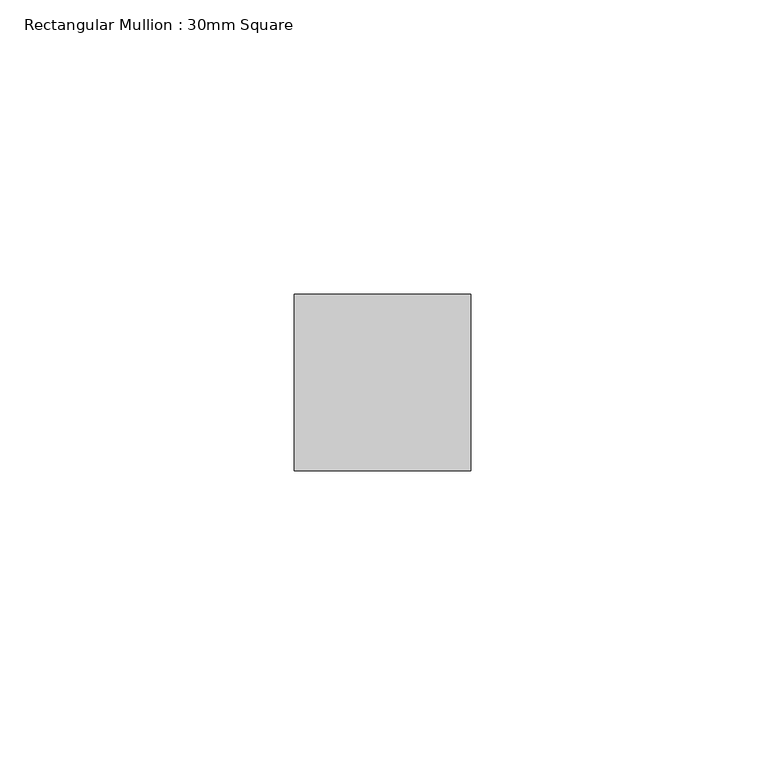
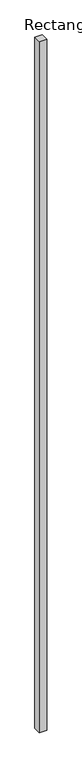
"""IFC4 building model written with IfcOpenShell, lengths in millimetres: member geometry, Rectangular Mullion : 30mm Square."""

import ifcopenshell
import ifcopenshell.guid

model = None  # the IFC model being written
_history = None  # IfcOwnerHistory: only IFC2X3 demands one
_inside = {}  # id of a spatial element -> (the spatial element, [elements in it])
_under = {}  # id of a project, library or spatial element -> (it, [spatial elements below it])
_declared = {}  # id of a project -> (the project, [libraries it declares])
_typed = {}  # id of a type object -> (the type object, [elements of that type])
_made_of = {}  # id of a material, layer set ... -> (it, [elements and type objects made of it])


def new_model(schema):
    """Start an empty IFC model of exactly this schema.

    Asked for "IFC4X3", IfcOpenShell would pick the latest addendum, in which some entities
    have other attributes; the version numbers below select the first issue.
    IFC2X3 requires an IfcOwnerHistory on every rooted entity: one is made here for all.
    """
    global model, _history
    if schema == "IFC4X3":
        model = ifcopenshell.file(schema_version=(4, 3, 0, 0))
    else:
        model = ifcopenshell.file(schema=schema)
    _inside.clear()
    _under.clear()
    _declared.clear()
    _typed.clear()
    _made_of.clear()
    _history = None
    if model.schema == "IFC2X3":
        org = make("IfcOrganization", Name="unknown")
        user = make(
            "IfcPersonAndOrganization",
            ThePerson=make("IfcPerson", FamilyName="unknown"),
            TheOrganization=org,
        )
        app = make(
            "IfcApplication",
            ApplicationDeveloper=org,
            Version="unknown",
            ApplicationFullName="unknown",
            ApplicationIdentifier="unknown",
        )
        _history = make(
            "IfcOwnerHistory",
            OwningUser=user,
            OwningApplication=app,
            ChangeAction="ADDED",
            CreationDate=0,
        )
    return model


def make(cls, **values):
    """One entity of the class cls with the attributes given. An attribute that is None is left unset."""
    return model.create_entity(
        cls, **{name: value for name, value in values.items() if value is not None}
    )


def rooted(cls, **values):
    """An entity with a GlobalId (a new one), such as an element, a storey or a relation."""
    return make(cls, GlobalId=ifcopenshell.guid.new(), OwnerHistory=_history, **values)


def si_unit(unit_type, name, prefix=None):
    """IfcSIUnit, for example si_unit("LENGTHUNIT", "METRE", prefix="MILLI")."""
    return make("IfcSIUnit", UnitType=unit_type, Prefix=prefix, Name=name)


def assignment(units):
    """IfcUnitAssignment: the units of a project."""
    return None if units is None else make("IfcUnitAssignment", Units=units)


def point(xyz):
    """IfcCartesianPoint."""
    return None if xyz is None else make("IfcCartesianPoint", Coordinates=xyz)


def direction(xyz):
    """IfcDirection."""
    return None if xyz is None else make("IfcDirection", DirectionRatios=xyz)


def frame(location, z_axis=None, x_axis=None):
    """IfcAxis2Placement3D, a coordinate frame: its origin and axes. An axis left out is left unset."""
    return make(
        "IfcAxis2Placement3D",
        Location=point(location),
        Axis=direction(z_axis),
        RefDirection=direction(x_axis),
    )


def origin():
    """The frame at (0, 0, 0) with its axes left unset."""
    return frame((0.0, 0.0, 0.0))


def place(relative_to, where):
    """IfcLocalPlacement: puts the frame where relative to a parent placement (None: the world)."""
    return make(
        "IfcLocalPlacement", PlacementRelTo=relative_to, RelativePlacement=where
    )


def context(
    kind, dimensions, precision=None, world=None, true_north=None, identifier=None
):
    """IfcGeometricRepresentationContext, for example the 3D "Model" context."""
    return make(
        "IfcGeometricRepresentationContext",
        ContextIdentifier=identifier,
        ContextType=kind,
        CoordinateSpaceDimension=dimensions,
        Precision=precision,
        WorldCoordinateSystem=world,
        TrueNorth=true_north,
    )


def project(units=None, contexts=None):
    """IfcProject with its units and contexts."""
    return rooted(
        "IfcProject",
        Name="project",
        RepresentationContexts=contexts,
        UnitsInContext=assignment(units),
    )


def spatial(cls, under=None, at=None, **own):
    """A site, building, storey or space (cls), placed at a placement, below another one or the project."""
    s = rooted(cls, ObjectPlacement=at, **own)
    if under is not None:
        _under.setdefault(under.id(), (under, []))[1].append(s)
    return s


def polyline(points):
    """IfcPolyline through the points."""
    return make("IfcPolyline", Points=[point(p) for p in points])


def outline(outer, holes=None, kind="AREA"):
    """IfcArbitraryClosedProfileDef: a profile drawn as a closed curve; with holes, ...WithVoids."""
    if holes is None:
        return make("IfcArbitraryClosedProfileDef", ProfileType=kind, OuterCurve=outer)
    return make(
        "IfcArbitraryProfileDefWithVoids",
        ProfileType=kind,
        OuterCurve=outer,
        InnerCurves=holes,
    )


def extrude(swept, where, along, depth):
    """IfcExtrudedAreaSolid: the profile swept, set in the frame where, extruded along a direction by depth."""
    return make(
        "IfcExtrudedAreaSolid",
        SweptArea=swept,
        Position=where,
        ExtrudedDirection=direction(along),
        Depth=depth,
    )


def shape(context_of_items, identifier, shape_type, items):
    """IfcShapeRepresentation: the items that make up one representation, for example the "Body"."""
    return make(
        "IfcShapeRepresentation",
        ContextOfItems=context_of_items,
        RepresentationIdentifier=identifier,
        RepresentationType=shape_type,
        Items=items,
    )


def source(mapping_origin, context_of_items, identifier, shape_type, items):
    """IfcRepresentationMap: a shape defined once, which mapped items show again and again."""
    return make(
        "IfcRepresentationMap",
        MappingOrigin=mapping_origin,
        MappedRepresentation=shape(context_of_items, identifier, shape_type, items),
    )


def transform(
    local_origin,
    x_axis=None,
    y_axis=None,
    z_axis=None,
    scale=None,
    scale2=None,
    scale3=None,
    uniform=True,
):
    """IfcCartesianTransformationOperator3D, or its non-uniform kind. x_axis, y_axis, z_axis: its Axis1, 2, 3."""
    if uniform:
        return make(
            "IfcCartesianTransformationOperator3D",
            Axis1=direction(x_axis),
            Axis2=direction(y_axis),
            LocalOrigin=point(local_origin),
            Scale=scale,
            Axis3=direction(z_axis),
        )
    return make(
        "IfcCartesianTransformationOperator3DnonUniform",
        Axis1=direction(x_axis),
        Axis2=direction(y_axis),
        LocalOrigin=point(local_origin),
        Scale=scale,
        Axis3=direction(z_axis),
        Scale2=scale2,
        Scale3=scale3,
    )


def mapped(mapping_source, mapping_target):
    """IfcMappedItem: shows the shape of a source again, moved by a transform."""
    return make(
        "IfcMappedItem", MappingSource=mapping_source, MappingTarget=mapping_target
    )


def made_of(thing, what):
    """Note that an element or type object is made of a material, layer set ...; save() writes the relation."""
    if what is not None:
        _made_of.setdefault(what.id(), (what, []))[1].append(thing)
    return thing


def element(
    cls,
    number,
    at=None,
    inside=None,
    cuts=None,
    type_object=None,
    material=None,
    context=None,
    identifier="Body",
    shape_type=None,
    held_by="IfcProductDefinitionShape",
    body=None,
    shapes=None,
    **own,
):
    """One element of the class cls, such as IfcWall. Its Tag is "e" and its number.

    at: its placement. inside: the storey or other place that contains it. cuts: it is an
    opening in that element (IfcRelVoidsElement). A single representation is given by context,
    identifier, shape_type and body (its items); several are given by shapes. held_by: the class
    of the entity that holds the representations. save() writes the other relations.
    """
    e = rooted(cls, Tag="e%d" % number, ObjectPlacement=at, **own)
    if body is not None:
        shapes = [shape(context, identifier, shape_type, body)]
    if shapes is not None:
        e.Representation = make(held_by, Representations=shapes)
    if inside is not None:
        _inside.setdefault(inside.id(), (inside, []))[1].append(e)
    if cuts is not None:
        rooted(
            "IfcRelVoidsElement", RelatingBuildingElement=cuts, RelatedOpeningElement=e
        )
    if type_object is not None:
        _typed.setdefault(type_object.id(), (type_object, []))[1].append(e)
    return made_of(e, material)


def aggregate(whole, parts):
    """IfcRelAggregates: a whole, such as a stair, and the parts it consists of."""
    return rooted("IfcRelAggregates", RelatingObject=whole, RelatedObjects=parts)


def save(model, path):
    """Write the relations noted so far, then the file.

    IfcRelAggregates (storeys below a building ...), IfcRelContainedInSpatialStructure (elements
    in a storey), IfcRelDefinesByType, IfcRelAssociatesMaterial and IfcRelDeclares: one each for
    every whole, place, type object, material and project.
    """
    for whole, parts in _under.values():
        aggregate(whole, parts)
    for where, things in _inside.values():
        rooted(
            "IfcRelContainedInSpatialStructure",
            RelatedElements=things,
            RelatingStructure=where,
        )
    for kind, things in _typed.values():
        rooted("IfcRelDefinesByType", RelatedObjects=things, RelatingType=kind)
    for what, things in _made_of.values():
        rooted("IfcRelAssociatesMaterial", RelatedObjects=things, RelatingMaterial=what)
    for by, libraries in _declared.values():
        rooted("IfcRelDeclares", RelatingContext=by, RelatedDefinitions=libraries)
    model.write(path)


def rectangular_mullion_30mm_square_151e444d(model_context):
    return source(origin(), model_context, "Body", "SweptSolid", [
        extrude(outline(polyline([(15.0, 15.0), (15.0, -15.0), (-15.0, -15.0), (-15.0, 15.0), (15.0, 15.0)])), frame((0.0, 0.0, -2930.0), z_axis=(0.0, 0.0, 1.0), x_axis=(1.0, 0.0, 0.0)), (0.0, 0.0, 1.0), 2930.0),
    ])


if __name__ == "__main__":
    model = new_model("IFC4")
    model_context = context("Model", 3, world=origin())
    ifc_project = project(units=[si_unit("LENGTHUNIT", "METRE", prefix="MILLI")], contexts=[model_context])
    site = spatial("IfcSite", under=ifc_project)
    building = spatial("IfcBuilding", under=site)
    placement = place(None, origin())
    rectangular_mullion_30mm_square_shape = rectangular_mullion_30mm_square_151e444d(model_context)
    element("IfcMember", 1, ObjectType="Rectangular Mullion : 30mm Square", at=placement, inside=building, context=model_context, shape_type="MappedRepresentation", body=[
        mapped(rectangular_mullion_30mm_square_shape, transform((0.0, 0.0, 0.0), x_axis=(1.0, 0.0, 0.0), y_axis=(0.0, 1.0, 0.0), z_axis=(0.0, 0.0, 1.0))),
    ])
    save(model, "model.ifc")
